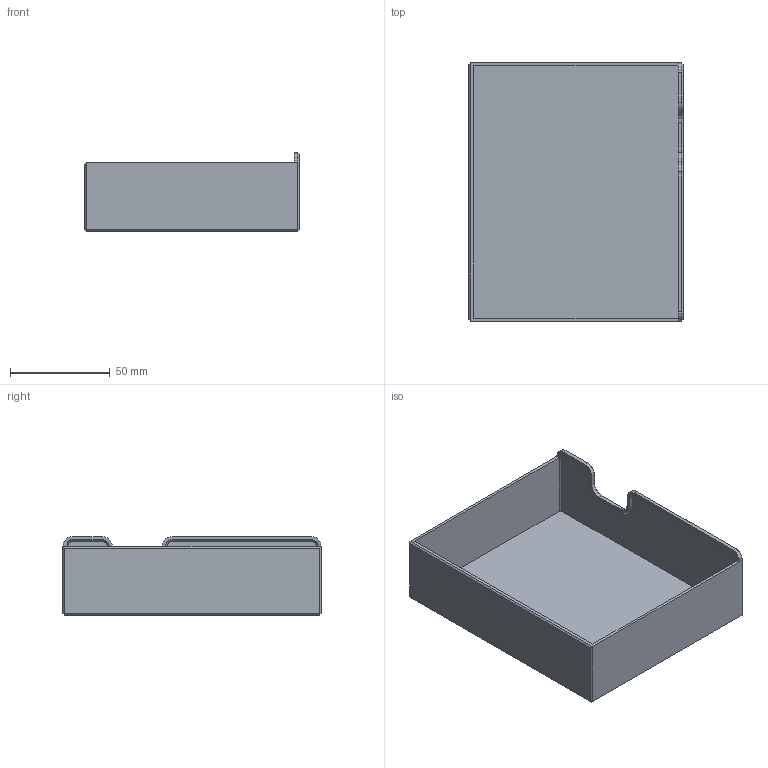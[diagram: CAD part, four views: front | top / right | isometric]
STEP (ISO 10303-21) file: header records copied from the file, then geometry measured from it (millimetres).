
FILE_DESCRIPTION(/* description */ (''),/* implementation_level */ '2;1');
FILE_NAME(/* name */ 'CupBoard v1-drawer2.step',/* time_stamp */ '2024-06-04T21:32:24+02:00',/* author */ (''),/* organization */ (''),/* preprocessor_version */ 'ST-DEVELOPER v20',/* originating_system */ 'Autodesk Translation Framework v13.14.0.145',/* authorisation */ '');
FILE_SCHEMA (('AUTOMOTIVE_DESIGN { 1 0 10303 214 3 1 1 }'));
Length unit declared in the file: millimetre
Products named in the file (2): CupBoard; Component1(Mirror)
Assembly tree (1 placements, depth 2):
  CupBoard
    Component1(Mirror)
Bounding box: 107.5 x 129.5 x 39.5 mm (x, y, z)
Volume: 44815.9 mm3; surface area: 59926.9 mm2
Topology: 1 solids, 1 shells, 66 faces, 161 edges, 97 vertices
Faces by surface type: plane 48, cone 12, cylinder 6
Entity records: 1953 total; most frequent: CARTESIAN_POINT 329, DIRECTION 328, ORIENTED_EDGE 322, EDGE_CURVE 161, LINE 130, VECTOR 130, AXIS2_PLACEMENT_3D 99, VERTEX_POINT 97
